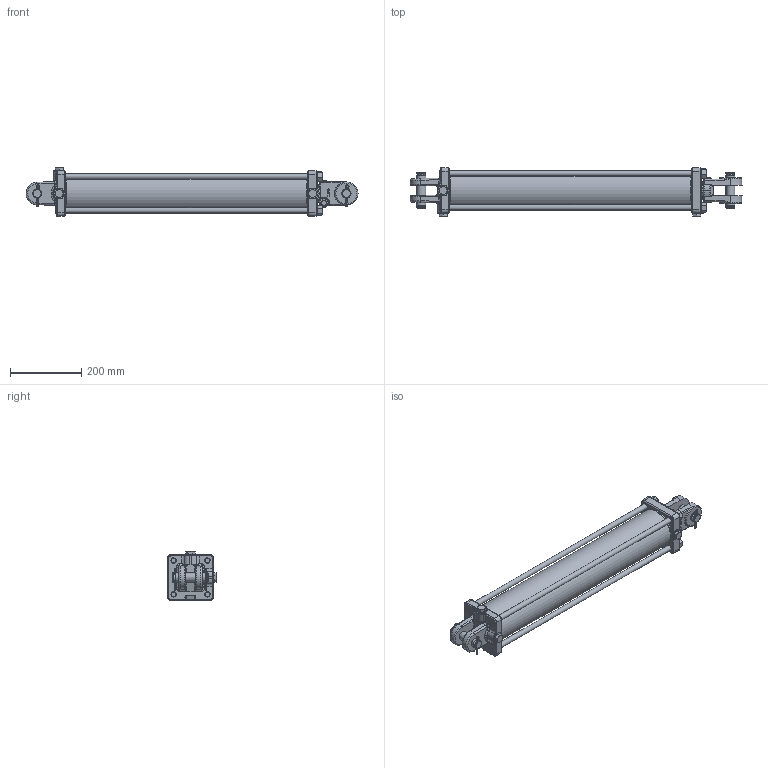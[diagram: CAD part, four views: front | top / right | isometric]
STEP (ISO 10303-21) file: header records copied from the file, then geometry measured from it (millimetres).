
FILE_DESCRIPTION((''),'2;1');
FILE_NAME('\\SRVR-ENG\EngSales\D400240BBACA07B.stp','2011-10-11T15:03:55',('KneiflD'),(''),'Autodesk Inventor 2011','Autodesk Inventor 2011','');
FILE_SCHEMA(('AUTOMOTIVE_DESIGN { 1 0 10303 214 1 1 1 1 }'));
Length unit declared in the file: inch
Products named in the file (24): D400240BBACA07B; 1419005SFV; 011129438D; 220000212V; 071900260V; 0819BBNSFV; 100000326; 100000325; 170002105; 220000223; 170301294V; 800006201V_29.5; 220000107V; 240000240V; 240061240V; 240000026V; 240060342V; 240011119V; 240020007V; 250014175V; 200300040V; 190400035V; 220001504V; 051926563AV
Assembly tree (34 placements, depth 3):
  D400240BBACA07B
    1419005SFV
    011129438D
    220000212V
    071900260V
    0819BBNSFV
    100000326
      100000325
      170002105
      220000223
    170301294V  x4
      800006201V_29.5
      220000107V
    240000240V  x2
    240061240V  x2
    240000026V
    240060342V
    240011119V
    240020007V
    250014175V
    200300040V  x3
    190400035V  x2
    220001504V  x4
    051926563AV
Bounding box: 934.1 x 137.01 x 137.01 mm (x, y, z)
Volume: 4764740.8 mm3; surface area: 1033811 mm2
Topology: 35 solids, 35 shells, 946 faces, 2178 edges, 1295 vertices
Faces by surface type: plane 294, cylinder 244, bspline 169, cone 166, torus 67, sphere 6
Full cylindrical faces by diameter (mm): 5.159 x4, 7.938 x3, 9.347 x1, 11.113 x2, 11.906 x2, 14.351 x4, 14.529 x4, 14.834 x4, 15.707 x1, 16.272 x4, 16.764 x3, 17.066 x2, 17.335 x1, 17.501 x2, 19.05 x3, 25.4 x6, 25.781 x4, 29.972 x1, 31.699 x1, 31.826 x1, 34.315 x1, 35.331 x1, 37.897 x1, 44.526 x2, 45.402 x1, 46.076 x1, 50.648 x1, 50.8 x1, 51.664 x1, 53.023 x1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
Entity records: 29418 total; most frequent: CARTESIAN_POINT 13204, ORIENTED_EDGE 3070, DIRECTION 3006, EDGE_CURVE 1535, AXIS2_PLACEMENT_3D 1263, VERTEX_POINT 1006, EDGE_LOOP 987, FACE_OUTER_BOUND 748
